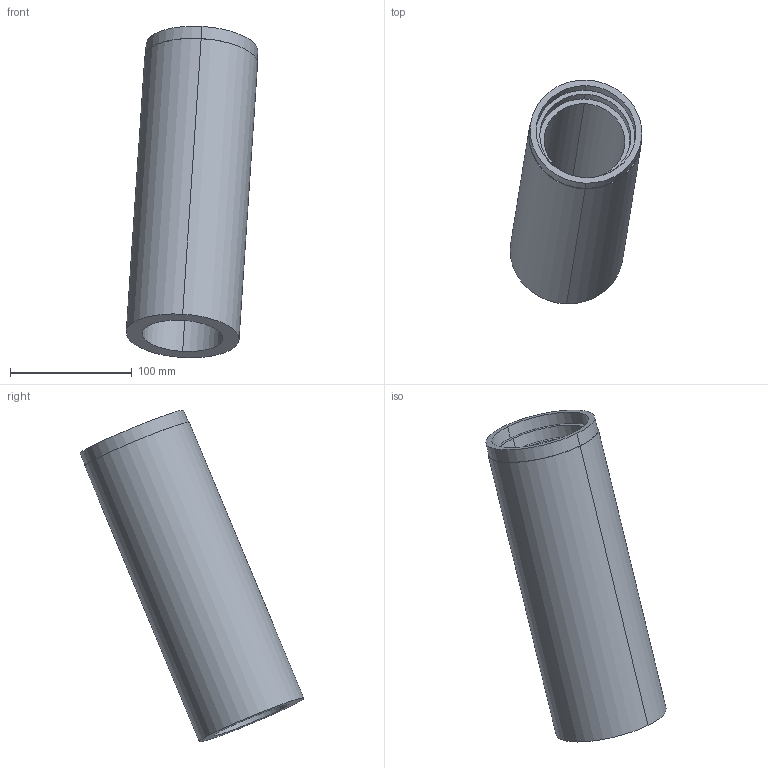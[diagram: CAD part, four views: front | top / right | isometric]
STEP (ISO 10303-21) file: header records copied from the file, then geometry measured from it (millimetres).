
FILE_DESCRIPTION (( 'STEP AP203' ), '1' );
FILE_NAME ('Objectif1_2_Défaut_sldprt.STEP', '2018-04-06T14:28:47', ( '' ), ( '' ), 'SwSTEP 2.0', 'SolidWorks 2013', '' );
FILE_SCHEMA (( 'CONFIG_CONTROL_DESIGN' ));
Length unit declared in the file: millimetre
Products named in the file (1): Objectif1_2_Défaut_sldprt
Bounding box: 108.26 x 183.85 x 272.74 mm (x, y, z)
Volume: 824035.6 mm3; surface area: 136137.4 mm2
Topology: 1 solids, 1 shells, 15 faces, 30 edges, 20 vertices
Faces by surface type: cylinder 10, plane 5
Entity records: 485 total; most frequent: DIRECTION 82, CARTESIAN_POINT 66, ORIENTED_EDGE 60, AXIS2_PLACEMENT_3D 36, EDGE_CURVE 30, CIRCLE 20, EDGE_LOOP 20, VERTEX_POINT 20
